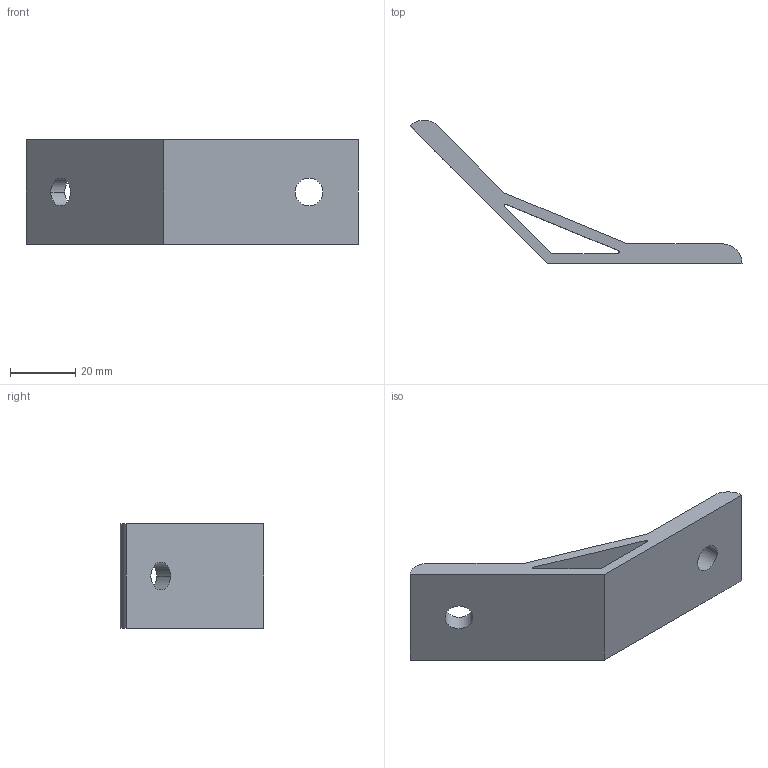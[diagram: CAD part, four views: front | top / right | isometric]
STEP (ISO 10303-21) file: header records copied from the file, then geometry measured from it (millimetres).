
FILE_DESCRIPTION (( 'STEP AP203' ), '1' );
FILE_NAME ('68－CE-40-135度.STEP', '2015-07-09T08:15:08', ( '' ), ( '' ), 'SwSTEP 2.0', 'SolidWorks 2013', '' );
FILE_SCHEMA (( 'CONFIG_CONTROL_DESIGN' ));
Length unit declared in the file: millimetre
Products named in the file (1): 68ㄜCE-40-135僅
Bounding box: 101.57 x 43.81 x 32 mm (x, y, z)
Volume: 20927.4 mm3; surface area: 11569.2 mm2
Topology: 1 solids, 1 shells, 19 faces, 51 edges, 34 vertices
Faces by surface type: plane 10, cylinder 9
Entity records: 692 total; most frequent: DIRECTION 109, CARTESIAN_POINT 105, ORIENTED_EDGE 102, EDGE_CURVE 51, AXIS2_PLACEMENT_3D 38, VERTEX_POINT 34, LINE 33, VECTOR 33
